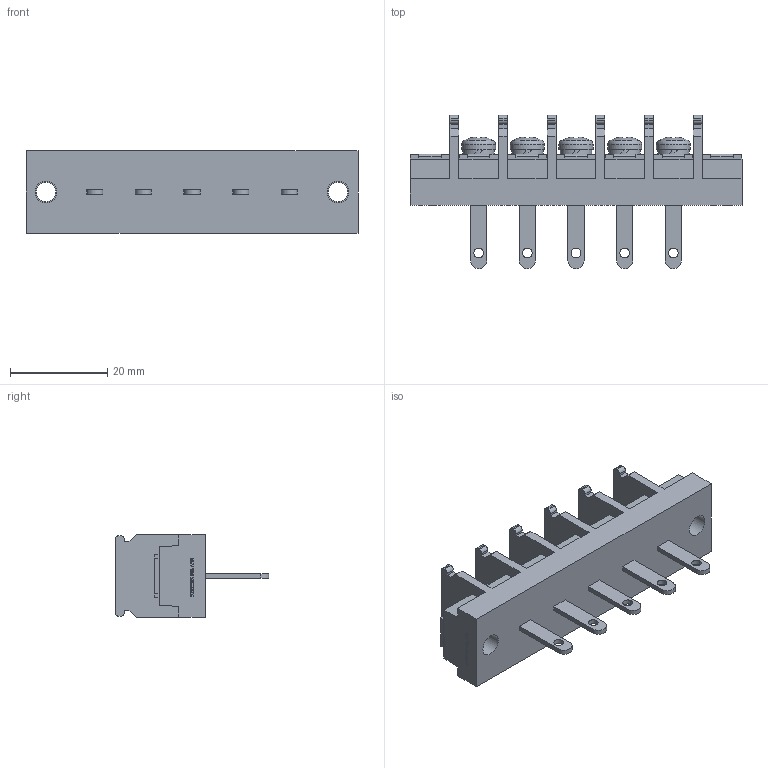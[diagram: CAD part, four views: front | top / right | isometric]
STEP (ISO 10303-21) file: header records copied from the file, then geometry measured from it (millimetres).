
FILE_DESCRIPTION(/* description */ ('Alibre Inc.'),/* implementation_level */ '2;1');
FILE_NAME(/* name */ 'export0',/* time_stamp */ '2015-10-14T19:13:26+09:00',/* author */ (''),/* organization */ (''),/* preprocessor_version */ 'ST-DEVELOPER v14',/* originating_system */ 'Alibre',/* authorisation */ '');
FILE_SCHEMA (('CONFIG_CONTROL_DESIGN'));
Length unit declared in the file: centimetre
Products named in the file (1): ID_1
Bounding box: 68.2 x 31.5 x 17 mm (x, y, z)
Volume: 12324.3 mm3; surface area: 7685.8 mm2
Topology: 1 solids, 17 shells, 784 faces, 2123 edges, 1412 vertices
Faces by surface type: plane 578, bspline 104, cylinder 67, cone 20, torus 10, sphere 5
Full cylindrical faces by diameter (mm): 2 x5, 4 x7, 4.5 x2, 6.5 x5, 7 x5
Entity records: 23836 total; most frequent: CARTESIAN_POINT 5337, ORIENTED_EDGE 4148, DIRECTION 2882, EDGE_CURVE 2074, VECTOR 1544, LINE 1544, VERTEX_POINT 1392, AXIS2_PLACEMENT_3D 953
